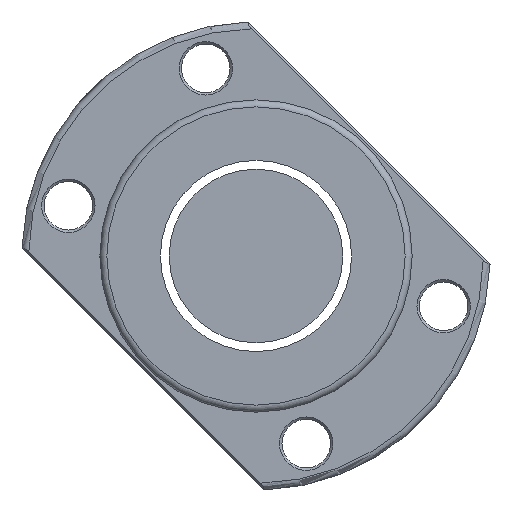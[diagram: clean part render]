
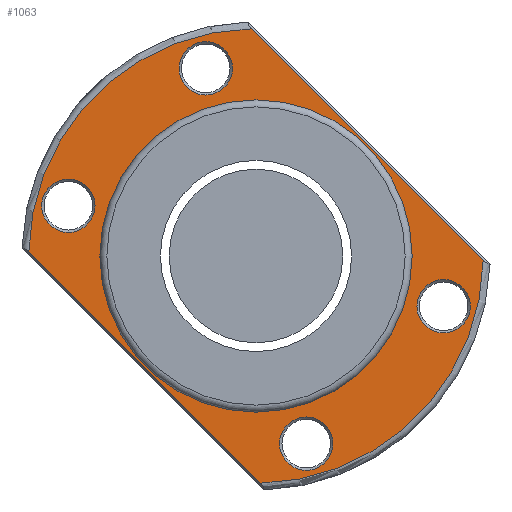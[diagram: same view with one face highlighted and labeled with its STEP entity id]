
A CAD part, left-side view. The second image highlights one B-rep face of the part: STEP entity #1063.
In plain terms, the highlighted planar face has unit normal (-1, 0, 0).
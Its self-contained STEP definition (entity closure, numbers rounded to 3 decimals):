
#10 = EDGE_CURVE ( 'NONE', #1050, #1050, #2068, .T. ) ;
#29 = DIRECTION ( 'NONE',  ( 0., 0., 1. ) ) ;
#41 = FACE_BOUND ( 'NONE', #95, .T. ) ;
#95 = EDGE_LOOP ( 'NONE', ( #1424 ) ) ;
#137 = ORIENTED_EDGE ( 'NONE', *, *, #557, .T. ) ;
#170 = VERTEX_POINT ( 'NONE', #2627 ) ;
#179 = EDGE_LOOP ( 'NONE', ( #431, #137, #629, #1002 ) ) ;
#206 = CARTESIAN_POINT ( 'NONE',  ( -189.5, -65.485, -1.421 ) ) ;
#254 = AXIS2_PLACEMENT_3D ( 'NONE', #462, #1145, #692 ) ;
#275 = ORIENTED_EDGE ( 'NONE', *, *, #1832, .T. ) ;
#287 = CARTESIAN_POINT ( 'NONE',  ( -189.5, -14.494, -46.392 ) ) ;
#292 = DIRECTION ( 'NONE',  ( -1., 0., 0. ) ) ;
#299 = EDGE_CURVE ( 'NONE', #1263, #170, #2808, .T. ) ;
#300 = EDGE_LOOP ( 'NONE', ( #1932 ) ) ;
#305 = CARTESIAN_POINT ( 'NONE',  ( -189.5, 14.494, 54.092 ) ) ;
#316 = DIRECTION ( 'NONE',  ( -1., 0., 0. ) ) ;
#331 = VERTEX_POINT ( 'NONE', #287 ) ;
#431 = ORIENTED_EDGE ( 'NONE', *, *, #299, .T. ) ;
#432 = ORIENTED_EDGE ( 'NONE', *, *, #10, .T. ) ;
#438 = DIRECTION ( 'NONE',  ( 1., 0., 0. ) ) ;
#462 = CARTESIAN_POINT ( 'NONE',  ( -189.5, 54.092, 14.494 ) ) ;
#519 = FACE_BOUND ( 'NONE', #573, .T. ) ;
#522 = CARTESIAN_POINT ( 'NONE',  ( -189.5, 65.782, 1.718 ) ) ;
#550 = VECTOR ( 'NONE', #901, 1000. ) ;
#557 = EDGE_CURVE ( 'NONE', #170, #2930, #1627, .T. ) ;
#573 = EDGE_LOOP ( 'NONE', ( #914 ) ) ;
#613 = EDGE_CURVE ( 'NONE', #2930, #1623, #2404, .T. ) ;
#629 = ORIENTED_EDGE ( 'NONE', *, *, #613, .T. ) ;
#692 = DIRECTION ( 'NONE',  ( 0., 0., 1. ) ) ;
#717 = FACE_BOUND ( 'NONE', #727, .T. ) ;
#727 = EDGE_LOOP ( 'NONE', ( #432 ) ) ;
#729 = CARTESIAN_POINT ( 'NONE',  ( -189.5, -14.494, -54.092 ) ) ;
#732 = FACE_OUTER_BOUND ( 'NONE', #179, .T. ) ;
#778 = PLANE ( 'NONE',  #1176 ) ;
#791 = VERTEX_POINT ( 'NONE', #2384 ) ;
#837 = AXIS2_PLACEMENT_3D ( 'NONE', #305, #2163, #1879 ) ;
#883 = CIRCLE ( 'NONE', #1974, 65.5 ) ;
#901 = DIRECTION ( 'NONE',  ( 0., 0.707, 0.707 ) ) ;
#914 = ORIENTED_EDGE ( 'NONE', *, *, #2595, .T. ) ;
#948 = DIRECTION ( 'NONE',  ( 0., -0.707, -0.707 ) ) ;
#990 = VERTEX_POINT ( 'NONE', #2862 ) ;
#1002 = ORIENTED_EDGE ( 'NONE', *, *, #1459, .T. ) ;
#1024 = EDGE_CURVE ( 'NONE', #2176, #2176, #2802, .T. ) ;
#1050 = VERTEX_POINT ( 'NONE', #2649 ) ;
#1063 = ADVANCED_FACE ( 'NONE', ( #41, #2865, #519, #1238, #717, #732 ), #778, .T. ) ;
#1145 = DIRECTION ( 'NONE',  ( 1., 0., 0. ) ) ;
#1146 = DIRECTION ( 'NONE',  ( 0., 0., -1. ) ) ;
#1176 = AXIS2_PLACEMENT_3D ( 'NONE', #1945, #1653, #2386 ) ;
#1180 = CIRCLE ( 'NONE', #254, 7.7 ) ;
#1238 = FACE_BOUND ( 'NONE', #300, .T. ) ;
#1263 = VERTEX_POINT ( 'NONE', #206 ) ;
#1279 = CARTESIAN_POINT ( 'NONE',  ( -189.5, -1.421, -65.485 ) ) ;
#1329 = AXIS2_PLACEMENT_3D ( 'NONE', #2608, #292, #29 ) ;
#1412 = CARTESIAN_POINT ( 'NONE',  ( -189.5, 0., 0. ) ) ;
#1424 = ORIENTED_EDGE ( 'NONE', *, *, #2334, .T. ) ;
#1459 = EDGE_CURVE ( 'NONE', #1623, #1263, #883, .T. ) ;
#1482 = CIRCLE ( 'NONE', #1867, 7.7 ) ;
#1623 = VERTEX_POINT ( 'NONE', #1279 ) ;
#1627 = CIRCLE ( 'NONE', #1329, 65.5 ) ;
#1653 = DIRECTION ( 'NONE',  ( -1., 0., 0. ) ) ;
#1664 = DIRECTION ( 'NONE',  ( 0., 0., 1. ) ) ;
#1714 = CARTESIAN_POINT ( 'NONE',  ( -189.5, 14.494, 61.792 ) ) ;
#1726 = AXIS2_PLACEMENT_3D ( 'NONE', #2503, #2223, #1799 ) ;
#1799 = DIRECTION ( 'NONE',  ( 0., 0., 1. ) ) ;
#1811 = CIRCLE ( 'NONE', #1726, 7.7 ) ;
#1832 = EDGE_CURVE ( 'NONE', #331, #331, #1482, .T. ) ;
#1867 = AXIS2_PLACEMENT_3D ( 'NONE', #729, #438, #1664 ) ;
#1879 = DIRECTION ( 'NONE',  ( 0., 0., 1. ) ) ;
#1932 = ORIENTED_EDGE ( 'NONE', *, *, #1024, .T. ) ;
#1945 = CARTESIAN_POINT ( 'NONE',  ( -189.5, 67.5, 0. ) ) ;
#1974 = AXIS2_PLACEMENT_3D ( 'NONE', #2470, #316, #1988 ) ;
#1988 = DIRECTION ( 'NONE',  ( 0., 0., 1. ) ) ;
#2068 = CIRCLE ( 'NONE', #2607, 45. ) ;
#2095 = CARTESIAN_POINT ( 'NONE',  ( -189.5, 65.485, 1.421 ) ) ;
#2163 = DIRECTION ( 'NONE',  ( 1., 0., 0. ) ) ;
#2176 = VERTEX_POINT ( 'NONE', #1714 ) ;
#2223 = DIRECTION ( 'NONE',  ( 1., 0., 0. ) ) ;
#2334 = EDGE_CURVE ( 'NONE', #791, #791, #1180, .T. ) ;
#2384 = CARTESIAN_POINT ( 'NONE',  ( -189.5, 54.092, 22.194 ) ) ;
#2386 = DIRECTION ( 'NONE',  ( 0., 0., 1. ) ) ;
#2404 = LINE ( 'NONE', #522, #2412 ) ;
#2412 = VECTOR ( 'NONE', #948, 1000. ) ;
#2470 = CARTESIAN_POINT ( 'NONE',  ( -189.5, 0., 0. ) ) ;
#2503 = CARTESIAN_POINT ( 'NONE',  ( -189.5, -54.092, -14.494 ) ) ;
#2574 = EDGE_LOOP ( 'NONE', ( #275 ) ) ;
#2595 = EDGE_CURVE ( 'NONE', #990, #990, #1811, .T. ) ;
#2607 = AXIS2_PLACEMENT_3D ( 'NONE', #1412, #2811, #1146 ) ;
#2608 = CARTESIAN_POINT ( 'NONE',  ( -189.5, 0., 0. ) ) ;
#2627 = CARTESIAN_POINT ( 'NONE',  ( -189.5, 1.421, 65.485 ) ) ;
#2649 = CARTESIAN_POINT ( 'NONE',  ( -189.5, 0., -45. ) ) ;
#2802 = CIRCLE ( 'NONE', #837, 7.7 ) ;
#2808 = LINE ( 'NONE', #3001, #550 ) ;
#2811 = DIRECTION ( 'NONE',  ( 1., 0., 0. ) ) ;
#2862 = CARTESIAN_POINT ( 'NONE',  ( -189.5, -54.092, -6.794 ) ) ;
#2865 = FACE_BOUND ( 'NONE', #2574, .T. ) ;
#2930 = VERTEX_POINT ( 'NONE', #2095 ) ;
#3001 = CARTESIAN_POINT ( 'NONE',  ( -189.5, 1.718, 65.782 ) ) ;
